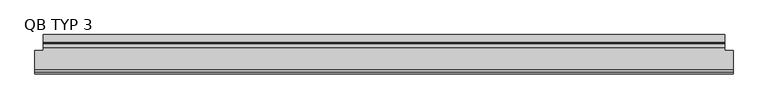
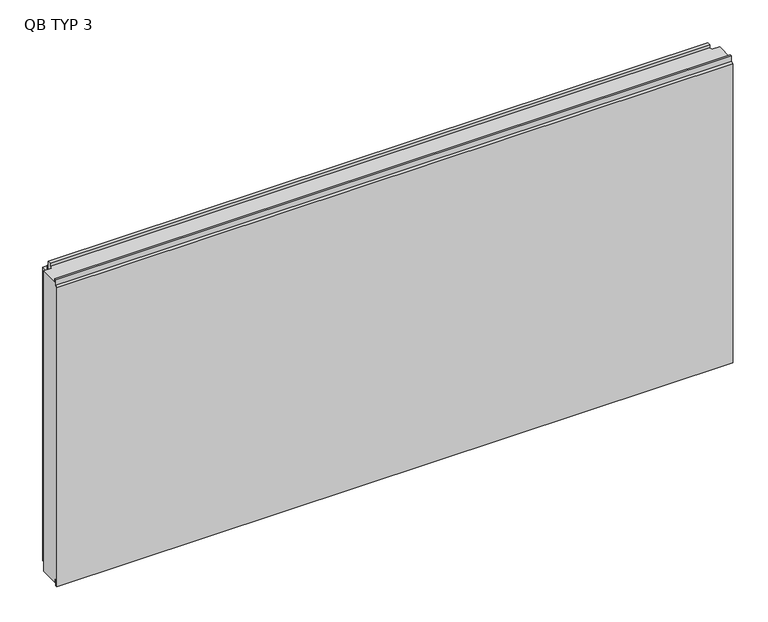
"""IFC4 building model written with IfcOpenShell, lengths in millimetres: plate geometry, TR_C_H_QBISS_Panel : QB TYP 3."""

from ifc_helpers import new_model, si_unit, frame, origin, place, context, project, spatial, polyline, outline, extrude, faceted_brep, source, transform, mapped, element, save


def qb_typ_3_9fe7e425(model_context):
    return source(origin(), model_context, "Body", "SolidModel", [
        faceted_brep([(1063.9, -108.0, 1000.0), (1063.9, -108.0, 1010.0), (1063.9, -114.0, 1010.0), (1063.9, -114.0, 992.0), (1063.9, -120.0, 986.0), (1063.9, -120.0, -8.0), (1063.9, -114.0, -8.0), (1063.9, -114.0, 13.0), (1063.9, -108.0, 13.0), (1063.9, -108.0, 0.0), (1063.9, -49.0, 0.0), (1063.9, -49.0, 1000.0), (-1063.9, -108.0, 0.0), (-1063.9, -108.0, 13.0), (-1063.9, -114.0, 13.0), (-1063.9, -114.0, -8.0), (-1063.9, -120.0, -8.0), (-1063.9, -120.0, 986.0), (-1063.9, -114.0, 992.0), (-1063.9, -114.0, 1010.0), (-1063.9, -108.0, 1010.0), (-1063.9, -108.0, 1000.0), (-1063.9, -49.0, 1000.0), (-1063.9, -49.0, 0.0), (-1038.8, -49.0, 0.0), (-1038.8, -39.0, 0.0), (1038.8, -39.0, 0.0), (1038.8, -49.0, 0.0), (-1038.8, -39.0, 13.0), (1038.8, -39.0, 13.0), (-1038.8, -29.0, 13.0), (1038.8, -29.0, 13.0), (-1038.8, -29.0, -4.0), (1038.8, -29.0, -4.0), (-1038.8, 0.0, -4.0), (1038.8, 0.0, -4.0), (-1038.8, 0.0, 973.0), (1038.8, 0.0, 973.0), (-1038.8, -29.0, 973.0), (1038.8, -29.0, 973.0), (-1038.8, -29.0, 1010.0), (1038.8, -29.0, 1010.0), (-1038.8, -39.0, 1010.0), (1038.8, -39.0, 1010.0), (-1038.8, -39.0, 1000.0), (1038.8, -39.0, 1000.0), (1038.8, -49.0, 1000.0), (-1038.8, -49.0, 1000.0)], [[[0, 1, 2, 3, 4, 5, 6, 7, 8, 9, 10, 11]], [[12, 13, 14, 15, 16, 17, 18, 19, 20, 21, 22, 23]], [[9, 12, 23, 24, 25, 26, 27, 10]], [[26, 25, 28, 29]], [[29, 28, 30, 31]], [[31, 30, 32, 33]], [[33, 32, 34, 35]], [[35, 34, 36, 37]], [[37, 36, 38, 39]], [[39, 38, 40, 41]], [[41, 40, 42, 43]], [[43, 42, 44, 45]], [[21, 0, 11, 46, 45, 44, 47, 22]], [[1, 0, 21, 20]], [[2, 1, 20, 19]], [[3, 2, 19, 18]], [[4, 3, 18, 17]], [[5, 4, 17, 16]], [[6, 5, 16, 15]], [[7, 6, 15, 14]], [[8, 7, 14, 13]], [[9, 8, 13, 12]], [[47, 24, 23, 22]], [[24, 47, 44, 42, 40, 38, 36, 34, 32, 30, 28, 25]], [[46, 27, 26, 29, 31, 33, 35, 37, 39, 41, 43, 45]], [[27, 46, 11, 10]]]),
        extrude(outline(polyline([(-24.0, 994.5), (-24.0, 974.5), (-25.4998317, 974.5), (-25.4998317, 981.3023028), (-27.9998293, 981.3023028), (-27.9998293, 980.5023028), (-28.7998428, 980.5023028), (-28.7998428, 988.5023593), (-27.9998293, 988.5023593), (-27.9998293, 987.7023593), (-25.4998317, 987.7023593), (-25.4998317, 994.5), (-24.0, 994.5)])), frame((-1038.8, 0.0, 0.0), z_axis=(1.0, 0.0, 0.0), x_axis=(0.0, 1.0, 0.0)), (0.0, 0.0, 1.0), 2077.6),
    ])


if __name__ == "__main__":
    model = new_model("IFC4")
    model_context = context("Model", 3, world=origin())
    ifc_project = project(units=[si_unit("LENGTHUNIT", "METRE", prefix="MILLI")], contexts=[model_context])
    site = spatial("IfcSite", under=ifc_project)
    building = spatial("IfcBuilding", under=site)
    placement = place(None, origin())
    qb_typ_3_shape = qb_typ_3_9fe7e425(model_context)
    element("IfcPlate", 1, ObjectType="TR_C_H_QBISS_Panel : QB TYP 3", at=placement, inside=building, context=model_context, shape_type="MappedRepresentation", body=[
        mapped(qb_typ_3_shape, transform((0.0, 0.0, 0.0), x_axis=(1.0, 0.0, 0.0), y_axis=(0.0, 1.0, 0.0), z_axis=(0.0, 0.0, 1.0))),
    ])
    save(model, "model.ifc")
